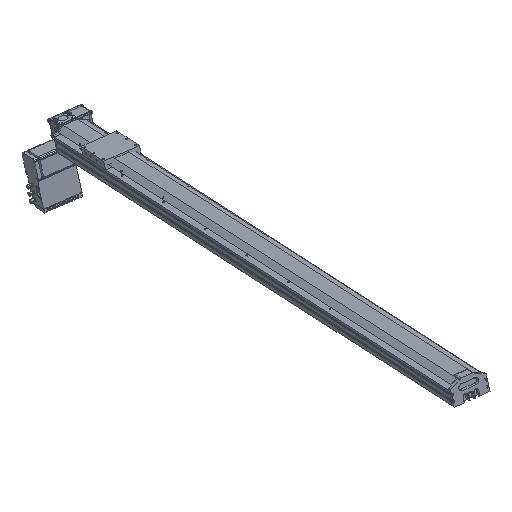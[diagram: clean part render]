
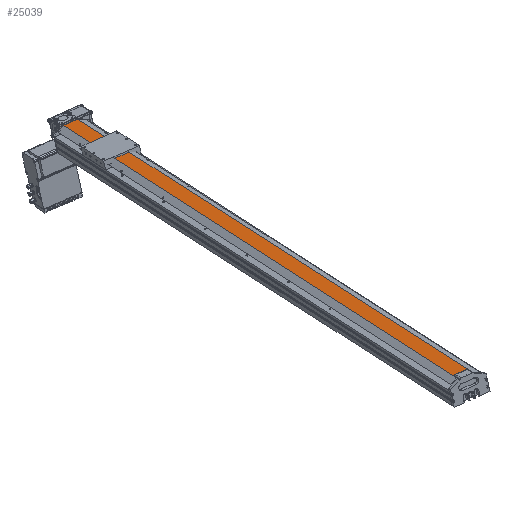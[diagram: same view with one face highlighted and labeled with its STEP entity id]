
A CAD part, front view. The second image highlights one B-rep face of the part: STEP entity #25039.
In plain terms, the highlighted planar face has unit normal (-0.185, -0.453, 0.872) as drawn and (0, 1, 0) by its records, which use the part's own axes.
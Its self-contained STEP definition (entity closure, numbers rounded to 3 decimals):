
#316 = CARTESIAN_POINT ( 'NONE',  ( -20., 61.75, 1900. ) ) ;
#322 = CARTESIAN_POINT ( 'NONE',  ( 20., 61.75, 0. ) ) ;
#324 = DIRECTION ( 'NONE',  ( 0., 0., -1. ) ) ;
#325 = VECTOR ( 'NONE', #324, 1000. ) ;
#326 = CARTESIAN_POINT ( 'NONE',  ( 20., 61.75, 1900. ) ) ;
#330 = LINE ( 'NONE', #326, #325 ) ;
#346 = LINE ( 'NONE', #322, #365 ) ;
#349 = DIRECTION ( 'NONE',  ( -1., 0., 0. ) ) ;
#350 = VECTOR ( 'NONE', #349, 1000. ) ;
#352 = CARTESIAN_POINT ( 'NONE',  ( 20., 61.75, 1900. ) ) ;
#353 = LINE ( 'NONE', #352, #350 ) ;
#355 = DIRECTION ( 'NONE',  ( 0., 0., -1. ) ) ;
#356 = VECTOR ( 'NONE', #355, 1000. ) ;
#357 = CARTESIAN_POINT ( 'NONE',  ( -20., 61.75, 1900. ) ) ;
#358 = DIRECTION ( 'NONE',  ( 0., 0., -1. ) ) ;
#360 = FACE_OUTER_BOUND ( 'NONE', #25047, .T. ) ;
#361 = DIRECTION ( 'NONE',  ( 0., -1., 0. ) ) ;
#362 = CARTESIAN_POINT ( 'NONE',  ( 20., 61.75, 1900. ) ) ;
#363 = PLANE ( 'NONE',  #372 ) ;
#364 = DIRECTION ( 'NONE',  ( -1., 0., 0. ) ) ;
#365 = VECTOR ( 'NONE', #364, 1000. ) ;
#366 = CARTESIAN_POINT ( 'NONE',  ( -20., 61.75, 0. ) ) ;
#371 = LINE ( 'NONE', #357, #356 ) ;
#372 = AXIS2_PLACEMENT_3D ( 'NONE', #375, #361, #358 ) ;
#375 = CARTESIAN_POINT ( 'NONE',  ( 20., 61.75, 1900. ) ) ;
#23137 = CARTESIAN_POINT ( 'NONE',  ( 20., 61.75, 0. ) ) ;
#23241 = CARTESIAN_POINT ( 'NONE',  ( 20., 61.75, 5.114 ) ) ;
#23248 = CARTESIAN_POINT ( 'NONE',  ( 20., 61.75, 1900. ) ) ;
#23249 = LINE ( 'NONE', #23248, #23254 ) ;
#23253 = DIRECTION ( 'NONE',  ( 0., 0., -1. ) ) ;
#23254 = VECTOR ( 'NONE', #23253, 1000. ) ;
#24423 = VERTEX_POINT ( 'NONE', #23137 ) ;
#24491 = EDGE_CURVE ( 'NONE', #24498, #24423, #23249, .T. ) ;
#24498 = VERTEX_POINT ( 'NONE', #23241 ) ;
#25021 = EDGE_CURVE ( 'NONE', #25037, #24498, #330, .T. ) ;
#25022 = ORIENTED_EDGE ( 'NONE', *, *, #25021, .T. ) ;
#25025 = ORIENTED_EDGE ( 'NONE', *, *, #24491, .T. ) ;
#25033 = EDGE_CURVE ( 'NONE', #24423, #25034, #346, .T. ) ;
#25034 = VERTEX_POINT ( 'NONE', #366 ) ;
#25037 = VERTEX_POINT ( 'NONE', #362 ) ;
#25038 = VERTEX_POINT ( 'NONE', #316 ) ;
#25039 = ADVANCED_FACE ( 'NONE', ( #360 ), #363, .F. ) ;
#25040 = ORIENTED_EDGE ( 'NONE', *, *, #25044, .F. ) ;
#25041 = ORIENTED_EDGE ( 'NONE', *, *, #25043, .F. ) ;
#25042 = ORIENTED_EDGE ( 'NONE', *, *, #25033, .T. ) ;
#25043 = EDGE_CURVE ( 'NONE', #25038, #25034, #371, .T. ) ;
#25044 = EDGE_CURVE ( 'NONE', #25037, #25038, #353, .T. ) ;
#25047 = EDGE_LOOP ( 'NONE', ( #25042, #25041, #25040, #25022, #25025 ) ) ;
